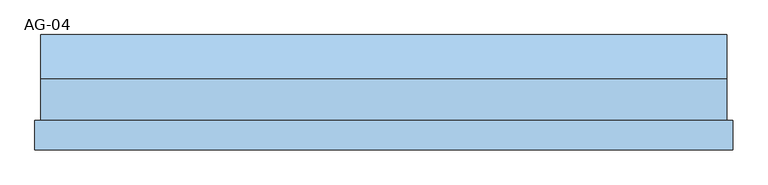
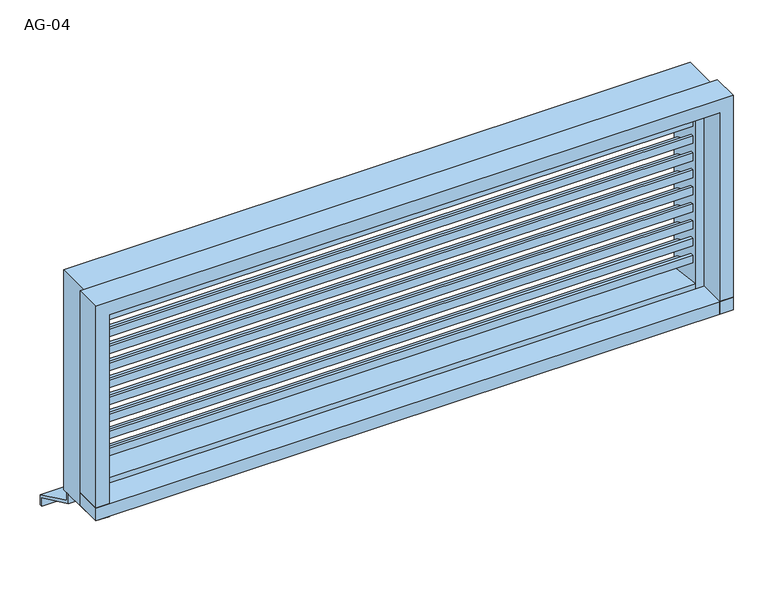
"""IFC4 building model written with IfcOpenShell, lengths in millimetres: window geometry, 営_単窓_ガラリ : AG-04."""

from ifc_helpers import new_model, si_unit, frame, origin, place, context, project, spatial, polyline, outline, extrude, source, transform, mapped, element, save


def ag_04_77c323ad(model_context):
    return source(origin(), model_context, "Body", "SweptSolid", [
        extrude(outline(polyline([(15.0, 1484.9160321), (15.0, 1466.6666667), (10.0, 1466.6666667), (10.0, 1481.6666667), (-35.0, 1501.6666667), (-35.0, 1516.6666667), (-30.0, 1516.6666667), (-30.0, 1504.9160321), (15.0, 1484.9160321)])), frame((-550.0, 0.0, 0.0), z_axis=(1.0, 0.0, 0.0), x_axis=(0.0, 1.0, 0.0)), (0.0, 0.0, 1.0), 1100.0),
        extrude(outline(polyline([(15.0, 1451.5826988), (15.0, 1433.3333333), (10.0, 1433.3333333), (10.0, 1448.3333333), (-35.0, 1468.3333333), (-35.0, 1483.3333333), (-30.0, 1483.3333333), (-30.0, 1471.5826988), (15.0, 1451.5826988)])), frame((-550.0, 0.0, 0.0), z_axis=(1.0, 0.0, 0.0), x_axis=(0.0, 1.0, 0.0)), (0.0, 0.0, 1.0), 1100.0),
        extrude(outline(polyline([(15.0, 1418.2493654), (15.0, 1400.0), (10.0, 1400.0), (10.0, 1415.0), (-35.0, 1435.0), (-35.0, 1450.0), (-30.0, 1450.0), (-30.0, 1438.2493654), (15.0, 1418.2493654)])), frame((-550.0, 0.0, 0.0), z_axis=(1.0, 0.0, 0.0), x_axis=(0.0, 1.0, 0.0)), (0.0, 0.0, 1.0), 1100.0),
        extrude(outline(polyline([(15.0, 1384.9160321), (15.0, 1366.6666667), (10.0, 1366.6666667), (10.0, 1381.6666667), (-35.0, 1401.6666667), (-35.0, 1416.6666667), (-30.0, 1416.6666667), (-30.0, 1404.9160321), (15.0, 1384.9160321)])), frame((-550.0, 0.0, 0.0), z_axis=(1.0, 0.0, 0.0), x_axis=(0.0, 1.0, 0.0)), (0.0, 0.0, 1.0), 1100.0),
        extrude(outline(polyline([(15.0, 1351.5826988), (15.0, 1333.3333333), (10.0, 1333.3333333), (10.0, 1348.3333333), (-35.0, 1368.3333333), (-35.0, 1383.3333333), (-30.0, 1383.3333333), (-30.0, 1371.5826988), (15.0, 1351.5826988)])), frame((-550.0, 0.0, 0.0), z_axis=(1.0, 0.0, 0.0), x_axis=(0.0, 1.0, 0.0)), (0.0, 0.0, 1.0), 1100.0),
        extrude(outline(polyline([(15.0, 1318.2493654), (15.0, 1300.0), (10.0, 1300.0), (10.0, 1315.0), (-35.0, 1335.0), (-35.0, 1350.0), (-30.0, 1350.0), (-30.0, 1338.2493654), (15.0, 1318.2493654)])), frame((-550.0, 0.0, 0.0), z_axis=(1.0, 0.0, 0.0), x_axis=(0.0, 1.0, 0.0)), (0.0, 0.0, 1.0), 1100.0),
        extrude(outline(polyline([(15.0, 1284.9160321), (15.0, 1266.6666667), (10.0, 1266.6666667), (10.0, 1281.6666667), (-35.0, 1301.6666667), (-35.0, 1316.6666667), (-30.0, 1316.6666667), (-30.0, 1304.9160321), (15.0, 1284.9160321)])), frame((-550.0, 0.0, 0.0), z_axis=(1.0, 0.0, 0.0), x_axis=(0.0, 1.0, 0.0)), (0.0, 0.0, 1.0), 1100.0),
        extrude(outline(polyline([(15.0, 1251.5826988), (15.0, 1233.3333333), (10.0, 1233.3333333), (10.0, 1248.3333333), (-35.0, 1268.3333333), (-35.0, 1283.3333333), (-30.0, 1283.3333333), (-30.0, 1271.5826988), (15.0, 1251.5826988)])), frame((-550.0, 0.0, 0.0), z_axis=(1.0, 0.0, 0.0), x_axis=(0.0, 1.0, 0.0)), (0.0, 0.0, 1.0), 1100.0),
        extrude(outline(polyline([(15.0, 1518.2493654), (15.0, 1500.0), (10.0, 1500.0), (10.0, 1515.0), (-35.0, 1535.0), (-35.0, 1550.0), (-30.0, 1550.0), (-30.0, 1538.2493654), (15.0, 1518.2493654)])), frame((-550.0, 0.0, 0.0), z_axis=(1.0, 0.0, 0.0), x_axis=(0.0, 1.0, 0.0)), (0.0, 0.0, 1.0), 1100.0),
        extrude(outline(polyline([(15.0, 1218.2493654), (15.0, 1200.0), (10.0, 1200.0), (10.0, 1215.0), (-35.0, 1235.0), (-35.0, 1250.0), (-30.0, 1250.0), (-30.0, 1238.2493654), (15.0, 1218.2493654)])), frame((-550.0, 0.0, 0.0), z_axis=(1.0, 0.0, 0.0), x_axis=(0.0, 1.0, 0.0)), (0.0, 0.0, 1.0), 1100.0),
        extrude(outline(polyline([(590.0, -95.0), (-590.0, -95.0), (-590.0, -45.0), (590.0, -45.0), (590.0, -95.0)])), frame((0.0, 0.0, 1165.0), z_axis=(0.0, 0.0, 1.0), x_axis=(1.0, 0.0, 0.0)), (0.0, 0.0, 1.0), 25.0),
        extrude(outline(polyline([(15.0, 1135.0), (100.0, 1095.0), (100.0, 1075.0), (95.0014518, 1075.0), (95.0014518, 1091.8262891), (10.0, 1131.8269723), (10.0, 1150.0), (15.0, 1150.0), (15.0, 1135.0)])), frame((-580.0, 0.0, 0.0), z_axis=(1.0, 0.0, 0.0), x_axis=(0.0, 1.0, 0.0)), (0.0, 0.0, 1.0), 1160.0),
        extrude(outline(polyline([(1165.0, -590.0), (1165.0, -565.0), (1560.0, -565.0), (1560.0, 565.0), (1165.0, 565.0), (1165.0, 590.0), (1585.0, 590.0), (1585.0, -590.0), (1165.0, -590.0)])), frame((0.0, -95.0, 0.0), z_axis=(0.0, 1.0, 0.0), x_axis=(0.0, 0.0, 1.0)), (0.0, 0.0, 1.0), 50.0),
        extrude(outline(polyline([(1150.0, -580.0), (1150.0, -550.0), (1550.0, -550.0), (1550.0, 550.0), (1150.0, 550.0), (1150.0, 580.0), (1580.0, 580.0), (1580.0, -580.0), (1150.0, -580.0)])), frame((0.0, -45.0, 0.0), z_axis=(0.0, 1.0, 0.0), x_axis=(0.0, 0.0, 1.0)), (0.0, 0.0, 1.0), 70.0),
        extrude(outline(polyline([(-45.0, 1150.0), (-45.0, 1200.0), (25.0, 1190.6666667), (25.0, 1150.0), (-45.0, 1150.0)])), frame((-550.0, 0.0, 0.0), z_axis=(1.0, 0.0, 0.0), x_axis=(0.0, 1.0, 0.0)), (0.0, 0.0, 1.0), 1100.0),
    ])


if __name__ == "__main__":
    model = new_model("IFC4")
    model_context = context("Model", 3, world=origin())
    ifc_project = project(units=[si_unit("LENGTHUNIT", "METRE", prefix="MILLI")], contexts=[model_context])
    site = spatial("IfcSite", under=ifc_project)
    building = spatial("IfcBuilding", under=site)
    placement = place(None, origin())
    ag_04_shape = ag_04_77c323ad(model_context)
    element("IfcWindow", 1, ObjectType="営_単窓_ガラリ : AG-04", at=placement, inside=building, context=model_context, shape_type="MappedRepresentation", body=[
        mapped(ag_04_shape, transform((0.0, 0.0, 0.0), x_axis=(1.0, 0.0, 0.0), y_axis=(0.0, 1.0, 0.0), z_axis=(0.0, 0.0, 1.0))),
    ])
    save(model, "model.ifc")
